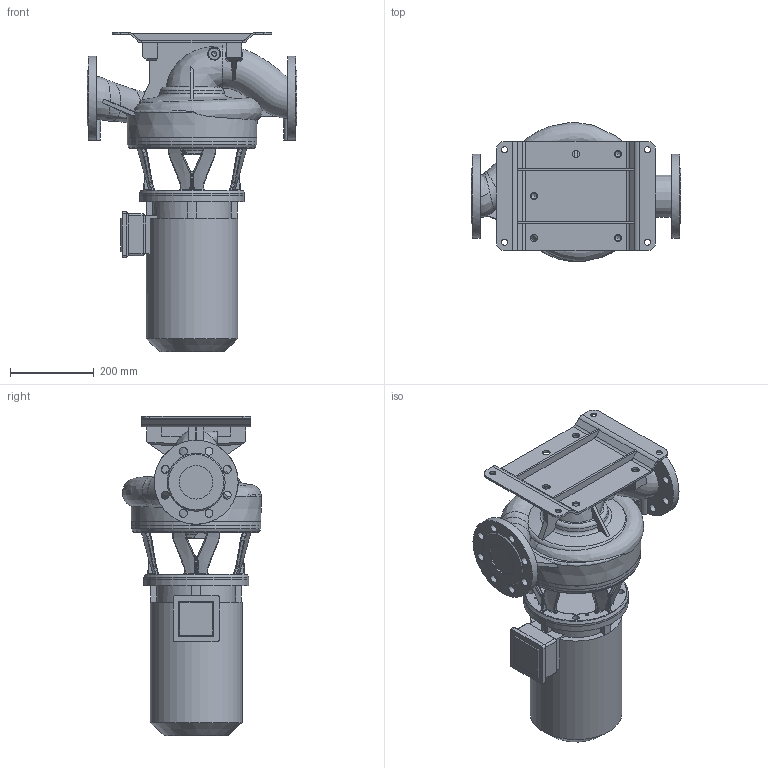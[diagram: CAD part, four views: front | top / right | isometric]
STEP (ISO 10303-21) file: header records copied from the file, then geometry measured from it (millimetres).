
FILE_DESCRIPTION (( 'STEP AP203' ), '1' );
FILE_NAME ('KI80-220_4_4kW.STEP', '2024-07-30T06:29:52', ( '' ), ( '' ), 'SwSTEP 2.0', 'SolidWorks 2023', '' );
FILE_SCHEMA (( 'CONFIG_CONTROL_DESIGN' ));
Length unit declared in the file: millimetre
Products named in the file (11): 230573; 230180; 220527; 220609; 230181; 230179; 440117_480130_solid; 220610; 220528; 230572; KI80-220_4_4kW
Assembly tree (11 placements, depth 3):
  KI80-220_4_4kW
    220610
      220609
    230573
      230572
    220528
      220527
    230181
      230179
      230180  x2
    440117_480130_solid
Bounding box: 500 x 330.67 x 760.3 mm (x, y, z)
Volume: 30147425 mm3; surface area: 1632688.5 mm2
Topology: 7 solids, 7 shells, 877 faces, 2270 edges, 1387 vertices
Faces by surface type: bspline 309, plane 236, cylinder 206, cone 59, torus 59, sphere 8
Full cylindrical faces by diameter (mm): 6 x2, 6.8 x8, 10 x4, 10.2 x8, 11.445 x1, 11.8 x3, 14 x19, 14.5 x4, 15 x8, 18 x5, 19 x16, 80 x2, 180 x1, 219 x1, 225 x1, 243 x1, 246 x1, 250 x2, 255 x2, 308 x2
Entity records: 72619 total; most frequent: CARTESIAN_POINT 53481, ORIENTED_EDGE 4066, DIRECTION 3089, EDGE_CURVE 2033, VERTEX_POINT 1310, AXIS2_PLACEMENT_3D 1306, EDGE_LOOP 1137, FACE_OUTER_BOUND 965
